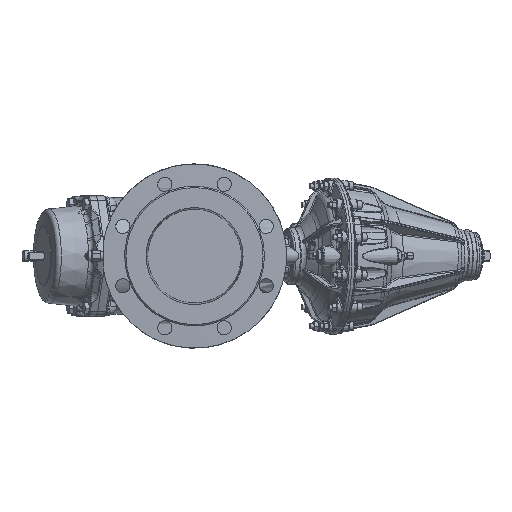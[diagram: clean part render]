
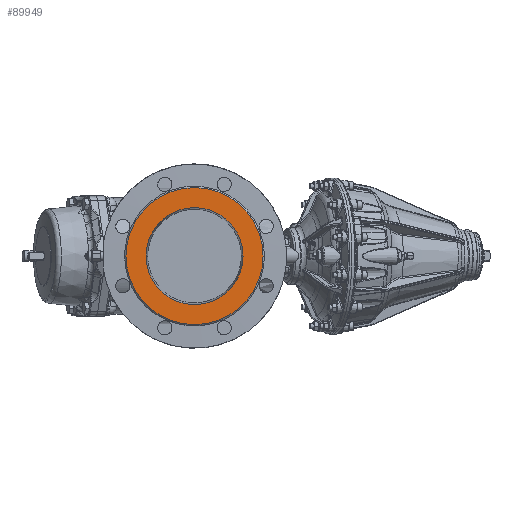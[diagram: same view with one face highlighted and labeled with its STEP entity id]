
A CAD part, left-side view. The second image highlights one B-rep face of the part: STEP entity #89949.
In plain terms, the highlighted planar face has unit normal (-1, 0, 0).
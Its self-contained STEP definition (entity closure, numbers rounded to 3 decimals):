
#14338 = CARTESIAN_POINT ( 'NONE',  ( -227., 0., 75. ) ) ;
#14428 = VERTEX_POINT ( 'NONE', #14338 ) ;
#14491 = CARTESIAN_POINT ( 'NONE',  ( -227., 0., 106. ) ) ;
#14495 = VERTEX_POINT ( 'NONE', #14491 ) ;
#63259 = DIRECTION ( 'NONE',  ( 0., 0., 1. ) ) ;
#63260 = DIRECTION ( 'NONE',  ( -1., 0., 0. ) ) ;
#63261 = CARTESIAN_POINT ( 'NONE',  ( -227., 0., 0. ) ) ;
#63262 = AXIS2_PLACEMENT_3D ( 'NONE', #63261, #63260, #63259 ) ;
#63263 = CIRCLE ( 'NONE', #63262, 106. ) ;
#75952 = AXIS2_PLACEMENT_3D ( 'NONE', #76096, #76094, #76092 ) ;
#75954 = CIRCLE ( 'NONE', #75952, 75. ) ;
#76092 = DIRECTION ( 'NONE',  ( 0., 0., 1. ) ) ;
#76094 = DIRECTION ( 'NONE',  ( -1., 0., 0. ) ) ;
#76096 = CARTESIAN_POINT ( 'NONE',  ( -227., 0., 0. ) ) ;
#77003 = AXIS2_PLACEMENT_3D ( 'NONE', #77114, #77113, #77111 ) ;
#77010 = FACE_BOUND ( 'NONE', #89909, .T. ) ;
#77111 = DIRECTION ( 'NONE',  ( 0., 0., 1. ) ) ;
#77113 = DIRECTION ( 'NONE',  ( -1., 0., 0. ) ) ;
#77114 = CARTESIAN_POINT ( 'NONE',  ( -227., -75., 0. ) ) ;
#77125 = PLANE ( 'NONE',  #77003 ) ;
#77130 = FACE_OUTER_BOUND ( 'NONE', #89776, .T. ) ;
#85887 = EDGE_CURVE ( 'NONE', #14495, #14495, #63263, .T. ) ;
#89639 = EDGE_CURVE ( 'NONE', #14428, #14428, #75954, .T. ) ;
#89773 = ORIENTED_EDGE ( 'NONE', *, *, #85887, .T. ) ;
#89776 = EDGE_LOOP ( 'NONE', ( #89773 ) ) ;
#89909 = EDGE_LOOP ( 'NONE', ( #90105 ) ) ;
#89949 = ADVANCED_FACE ( 'NONE', ( #77010, #77130 ), #77125, .T. ) ;
#90105 = ORIENTED_EDGE ( 'NONE', *, *, #89639, .F. ) ;
